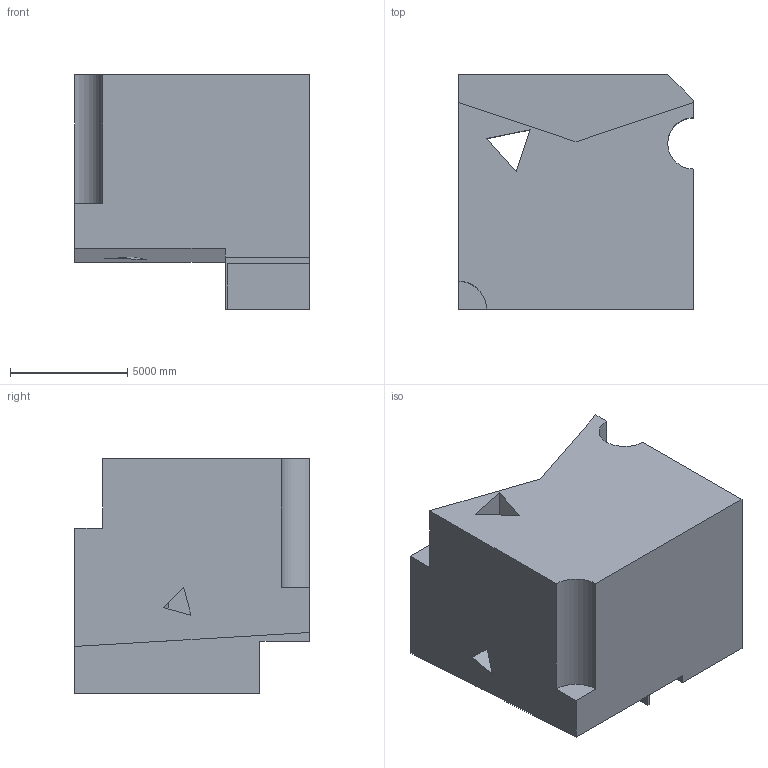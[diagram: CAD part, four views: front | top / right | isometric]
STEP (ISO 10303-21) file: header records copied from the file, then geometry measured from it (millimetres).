
FILE_DESCRIPTION (( 'STEP AP203' ), '1' );
FILE_NAME ('191.STEP', '2022-08-31T14:36:19', ( 'user' ), ( '' ), 'SwSTEP 2.0', 'SolidWorks 2021', '' );
FILE_SCHEMA (( 'CONFIG_CONTROL_DESIGN' ));
Length unit declared in the file: centimetre
Products named in the file (1): 191
Bounding box: 10000 x 10000 x 10000 mm (x, y, z)
Volume: 725967832976.9 mm3; surface area: 606011965.2 mm2
Topology: 1 solids, 1 shells, 30 faces, 87 edges, 58 vertices
Faces by surface type: plane 28, cylinder 2
Entity records: 1060 total; most frequent: CARTESIAN_POINT 176, ORIENTED_EDGE 174, DIRECTION 153, EDGE_CURVE 87, LINE 83, VECTOR 83, VERTEX_POINT 58, AXIS2_PLACEMENT_3D 35
